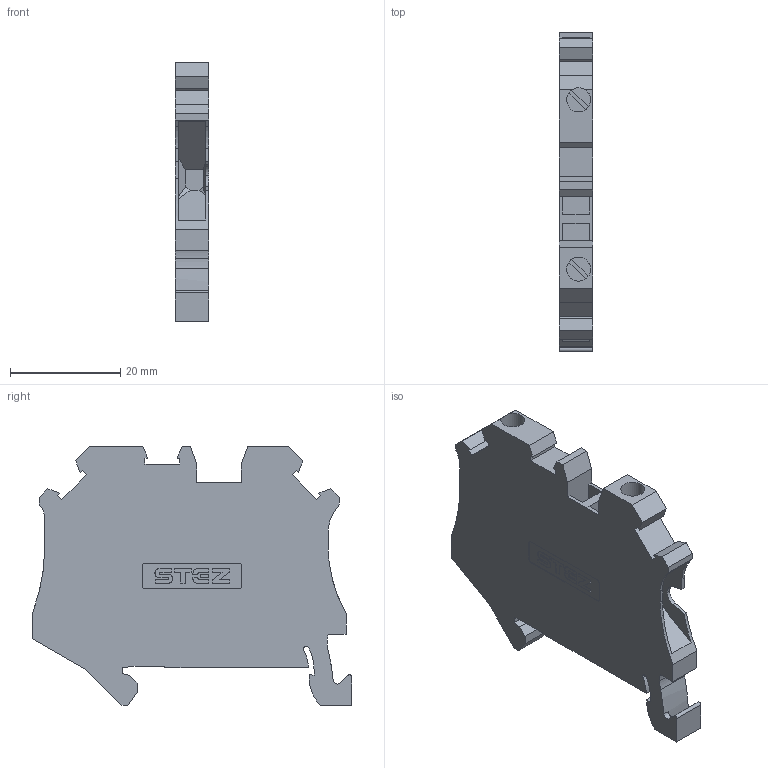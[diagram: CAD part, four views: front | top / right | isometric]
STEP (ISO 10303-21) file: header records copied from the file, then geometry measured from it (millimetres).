
FILE_DESCRIPTION(('TFLEX Exchange Step'),'2;1');
FILE_NAME('11200014_КНВ_4-2-РЗМ-П.stp', '2024-03-13T16:25:18+03:00',('apanin'),('Unknown organisation'),'TFLEX Exchange 2023.2','T-FLEX CAD','Unknown authorisation');
FILE_SCHEMA( ('AUTOMOTIVE_DESIGN { 1 0 10303 214 1 1 1 1 }') );
Length unit declared in the file: millimetre
Products named in the file (1): Тело_1 - UT_4_MTD-SELECT:1
Bounding box: 6.15 x 57.8 x 46.85 mm (x, y, z)
Volume: 10813 mm3; surface area: 6654.8 mm2
Topology: 1 solids, 1 shells, 372 faces, 1082 edges, 720 vertices
Faces by surface type: cylinder 192, plane 180
Full cylindrical faces by diameter (mm): 4.35 x2
Entity records: 12466 total; most frequent: DIRECTION 2225, CARTESIAN_POINT 2179, ORIENTED_EDGE 2164, EDGE_CURVE 1082, AXIS2_PLACEMENT_3D 772, VERTEX_POINT 720, VECTOR 681, LINE 681
